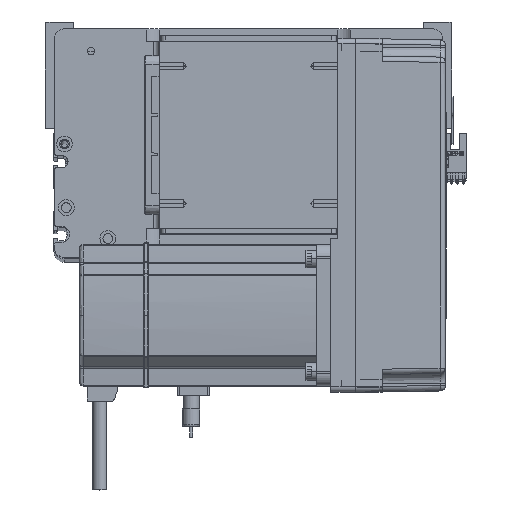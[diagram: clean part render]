
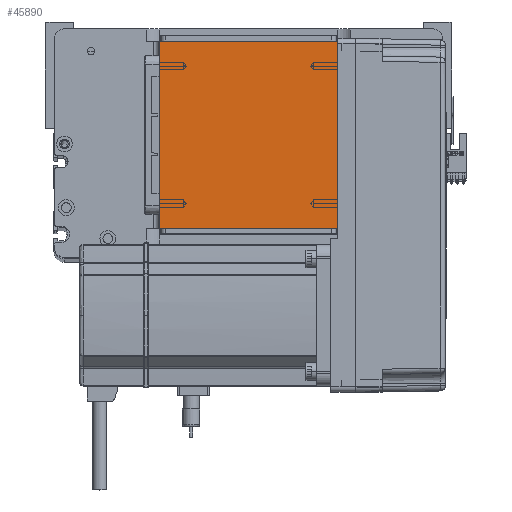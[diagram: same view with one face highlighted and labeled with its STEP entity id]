
A CAD part, top view. The second image highlights one B-rep face of the part: STEP entity #45890.
In plain terms, the highlighted planar face has unit normal (0, 0, 1).
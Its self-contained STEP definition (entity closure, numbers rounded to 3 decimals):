
#35 = DIRECTION ( 'NONE',  ( 0., 0., 1. ) ) ;
#1743 = CARTESIAN_POINT ( 'NONE',  ( -50.5, 16., 115. ) ) ;
#2872 = CARTESIAN_POINT ( 'NONE',  ( -50.5, 122., 115. ) ) ;
#4933 = LINE ( 'NONE', #36036, #35829 ) ;
#5142 = VERTEX_POINT ( 'NONE', #21687 ) ;
#6352 = AXIS2_PLACEMENT_3D ( 'NONE', #24217, #35, #8300 ) ;
#8217 = VECTOR ( 'NONE', #49441, 1000. ) ;
#8300 = DIRECTION ( 'NONE',  ( 1., 0., 0. ) ) ;
#9561 = EDGE_CURVE ( 'NONE', #31658, #15297, #4933, .T. ) ;
#10262 = CARTESIAN_POINT ( 'NONE',  ( 50.5, 122., 115. ) ) ;
#10425 = PLANE ( 'NONE',  #6352 ) ;
#11142 = DIRECTION ( 'NONE',  ( 0., -1., 0. ) ) ;
#11590 = EDGE_CURVE ( 'NONE', #5142, #31658, #34731, .T. ) ;
#15297 = VERTEX_POINT ( 'NONE', #40393 ) ;
#20778 = VECTOR ( 'NONE', #35928, 1000. ) ;
#21687 = CARTESIAN_POINT ( 'NONE',  ( 50.5, 16., 115. ) ) ;
#22318 = ORIENTED_EDGE ( 'NONE', *, *, #42728, .T. ) ;
#24217 = CARTESIAN_POINT ( 'NONE',  ( 0., 0., 115. ) ) ;
#30241 = LINE ( 'NONE', #47492, #20778 ) ;
#31328 = VECTOR ( 'NONE', #11142, 1000. ) ;
#31658 = VERTEX_POINT ( 'NONE', #10262 ) ;
#32496 = ORIENTED_EDGE ( 'NONE', *, *, #11590, .T. ) ;
#34731 = LINE ( 'NONE', #45219, #8217 ) ;
#35135 = VERTEX_POINT ( 'NONE', #1743 ) ;
#35829 = VECTOR ( 'NONE', #51789, 1000. ) ;
#35928 = DIRECTION ( 'NONE',  ( 1., 0., 0. ) ) ;
#36036 = CARTESIAN_POINT ( 'NONE',  ( -50.5, 122., 115. ) ) ;
#40393 = CARTESIAN_POINT ( 'NONE',  ( -50.5, 122., 115. ) ) ;
#41428 = LINE ( 'NONE', #2872, #31328 ) ;
#42728 = EDGE_CURVE ( 'NONE', #15297, #35135, #41428, .T. ) ;
#43878 = EDGE_LOOP ( 'NONE', ( #22318, #45375, #32496, #50449 ) ) ;
#45219 = CARTESIAN_POINT ( 'NONE',  ( 50.5, 122., 115. ) ) ;
#45252 = FACE_OUTER_BOUND ( 'NONE', #43878, .T. ) ;
#45375 = ORIENTED_EDGE ( 'NONE', *, *, #46253, .T. ) ;
#45890 = ADVANCED_FACE ( 'NONE', ( #45252 ), #10425, .T. ) ;
#46253 = EDGE_CURVE ( 'NONE', #35135, #5142, #30241, .T. ) ;
#47492 = CARTESIAN_POINT ( 'NONE',  ( -50.5, 16., 115. ) ) ;
#49441 = DIRECTION ( 'NONE',  ( 0., 1., 0. ) ) ;
#50449 = ORIENTED_EDGE ( 'NONE', *, *, #9561, .T. ) ;
#51789 = DIRECTION ( 'NONE',  ( -1., 0., 0. ) ) ;
